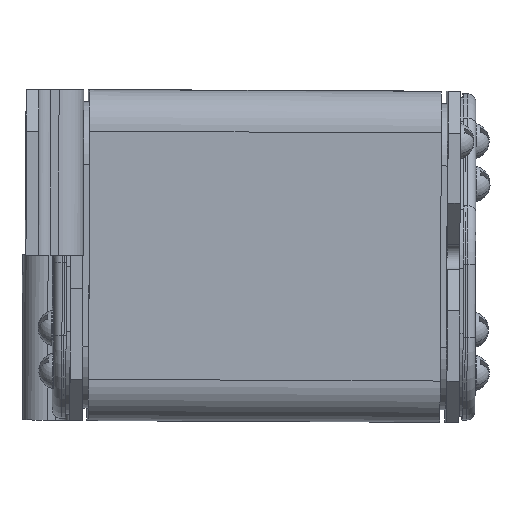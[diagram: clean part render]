
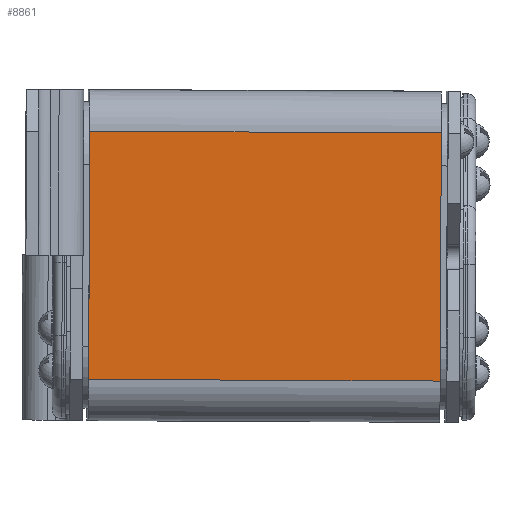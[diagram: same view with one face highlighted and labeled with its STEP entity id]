
A CAD part, front view. The second image highlights one B-rep face of the part: STEP entity #8861.
In plain terms, the highlighted planar face has unit normal (0.005, -1, -0.001) as drawn and (1, 0, 0) by its records, which use the part's own axes.
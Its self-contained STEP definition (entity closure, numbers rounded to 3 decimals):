
#185 = EDGE_CURVE ( 'NONE', #9583, #5824, #4367, .T. ) ;
#254 = DIRECTION ( 'NONE',  ( 0., -1., 0. ) ) ;
#448 = CARTESIAN_POINT ( 'NONE',  ( 40., 42.5, -30. ) ) ;
#572 = CARTESIAN_POINT ( 'NONE',  ( 40., 42.5, 30. ) ) ;
#636 = LINE ( 'NONE', #901, #9513 ) ;
#901 = CARTESIAN_POINT ( 'NONE',  ( 40., 42.5, -30. ) ) ;
#1167 = PLANE ( 'NONE',  #2729 ) ;
#1919 = EDGE_CURVE ( 'NONE', #9377, #5824, #9084, .T. ) ;
#2087 = CARTESIAN_POINT ( 'NONE',  ( 40., -42.5, -30. ) ) ;
#2214 = VECTOR ( 'NONE', #3862, 1000. ) ;
#2494 = DIRECTION ( 'NONE',  ( 0., 0., -1. ) ) ;
#2729 = AXIS2_PLACEMENT_3D ( 'NONE', #448, #7976, #4146 ) ;
#3070 = LINE ( 'NONE', #3920, #5174 ) ;
#3081 = ORIENTED_EDGE ( 'NONE', *, *, #1919, .T. ) ;
#3338 = DIRECTION ( 'NONE',  ( 0., -1., 0. ) ) ;
#3862 = DIRECTION ( 'NONE',  ( 0., 0., -1. ) ) ;
#3920 = CARTESIAN_POINT ( 'NONE',  ( 40., 42.5, 30. ) ) ;
#4094 = ORIENTED_EDGE ( 'NONE', *, *, #4216, .F. ) ;
#4146 = DIRECTION ( 'NONE',  ( 0., 0., 1. ) ) ;
#4207 = CARTESIAN_POINT ( 'NONE',  ( 40., -42.5, 30. ) ) ;
#4216 = EDGE_CURVE ( 'NONE', #6410, #9583, #636, .T. ) ;
#4230 = EDGE_CURVE ( 'NONE', #6410, #9377, #3070, .T. ) ;
#4288 = ORIENTED_EDGE ( 'NONE', *, *, #185, .F. ) ;
#4367 = LINE ( 'NONE', #7806, #8574 ) ;
#5174 = VECTOR ( 'NONE', #254, 1000. ) ;
#5368 = CARTESIAN_POINT ( 'NONE',  ( 40., -42.5, -30. ) ) ;
#5395 = ORIENTED_EDGE ( 'NONE', *, *, #4230, .T. ) ;
#5812 = EDGE_LOOP ( 'NONE', ( #3081, #4288, #4094, #5395 ) ) ;
#5824 = VERTEX_POINT ( 'NONE', #2087 ) ;
#6410 = VERTEX_POINT ( 'NONE', #572 ) ;
#6580 = CARTESIAN_POINT ( 'NONE',  ( 40., 42.5, -30. ) ) ;
#7806 = CARTESIAN_POINT ( 'NONE',  ( 40., 42.5, -30. ) ) ;
#7976 = DIRECTION ( 'NONE',  ( -1., 0., 0. ) ) ;
#8574 = VECTOR ( 'NONE', #3338, 1000. ) ;
#8861 = ADVANCED_FACE ( 'NONE', ( #9275 ), #1167, .F. ) ;
#9084 = LINE ( 'NONE', #5368, #2214 ) ;
#9275 = FACE_OUTER_BOUND ( 'NONE', #5812, .T. ) ;
#9377 = VERTEX_POINT ( 'NONE', #4207 ) ;
#9513 = VECTOR ( 'NONE', #2494, 1000. ) ;
#9583 = VERTEX_POINT ( 'NONE', #6580 ) ;
